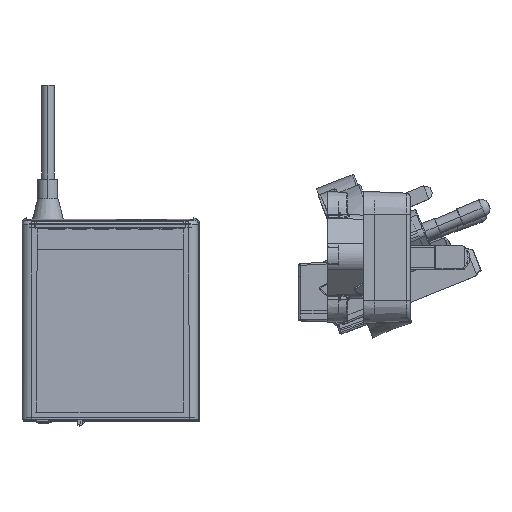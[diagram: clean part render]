
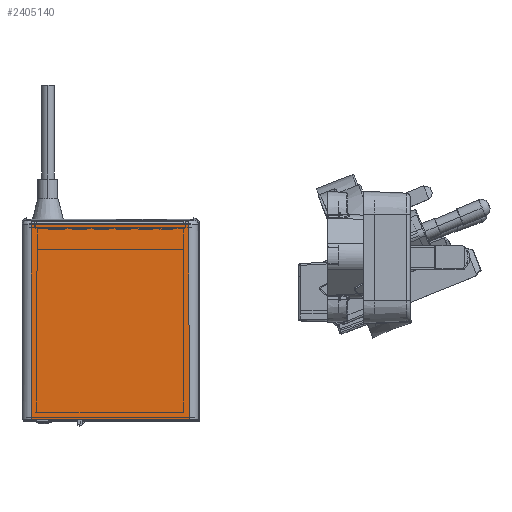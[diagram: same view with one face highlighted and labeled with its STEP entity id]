
A CAD part, top view. The second image highlights one B-rep face of the part: STEP entity #2405140.
In plain terms, the highlighted planar face has unit normal (0, 0.002, 1) as drawn and (-1, 0, -0.002) by its records, which use the part's own axes.
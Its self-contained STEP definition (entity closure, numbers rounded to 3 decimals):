
#2339810=CARTESIAN_POINT('',(-40.171,11.392,
0.));
#2339820=VERTEX_POINT('',#2339810);
#2339850=CARTESIAN_POINT('',(-40.171,11.392,
0.));
#2339860=DIRECTION('',(0.,1.,0.));
#2339870=VECTOR('',#2339860,1.);
#2339880=LINE('',#2339850,#2339870);
#2339890=CARTESIAN_POINT('',(-40.171,54.608,
0.));
#2339900=VERTEX_POINT('',#2339890);
#2339910=EDGE_CURVE('',#2339820,#2339900,#2339880,.T.);
#2402670=CARTESIAN_POINT('',(-40.077,54.514,
-53.331));
#2402680=VERTEX_POINT('',#2402670);
#2402880=CARTESIAN_POINT('',(-40.077,11.486,
-53.331));
#2402890=DIRECTION('',(0.,1.,0.));
#2402900=VECTOR('',#2402890,1.);
#2402910=LINE('',#2402880,#2402900);
#2402920=CARTESIAN_POINT('',(-40.077,11.486,
-53.331));
#2402930=VERTEX_POINT('',#2402920);
#2402940=EDGE_CURVE('',#2402930,#2402680,#2402910,.T.);
#2404890=CARTESIAN_POINT('',(-40.077,11.486,
-53.331));
#2404900=DIRECTION('',(-0.002,-0.002,
1.));
#2404910=VECTOR('',#2404900,1.);
#2404920=LINE('',#2404890,#2404910);
#2404930=EDGE_CURVE('',#2402930,#2339820,#2404920,.T.);
#2404980=CARTESIAN_POINT('',(-40.171,33.,
0.));
#2404990=DIRECTION('',(-1.,0.,
-0.002));
#2405000=DIRECTION('',(-0.002,0.,1.));
#2405010=AXIS2_PLACEMENT_3D('',#2404980,#2404990,#2405000);
#2405020=PLANE('',#2405010);
#2405030=ORIENTED_EDGE('',*,*,#2339910,.T.);
#2405040=ORIENTED_EDGE('',*,*,#2404930,.T.);
#2405050=ORIENTED_EDGE('',*,*,#2402940,.F.);
#2405060=CARTESIAN_POINT('',(-40.171,54.608,
0.));
#2405070=DIRECTION('',(0.002,-0.002,
-1.));
#2405080=VECTOR('',#2405070,1.);
#2405090=LINE('',#2405060,#2405080);
#2405100=EDGE_CURVE('',#2339900,#2402680,#2405090,.T.);
#2405110=ORIENTED_EDGE('',*,*,#2405100,.T.);
#2405120=EDGE_LOOP('',(#2405110,#2405050,#2405040,#2405030));
#2405130=FACE_OUTER_BOUND('',#2405120,.T.);
#2405140=ADVANCED_FACE('',(#2405130),#2405020,.T.);
